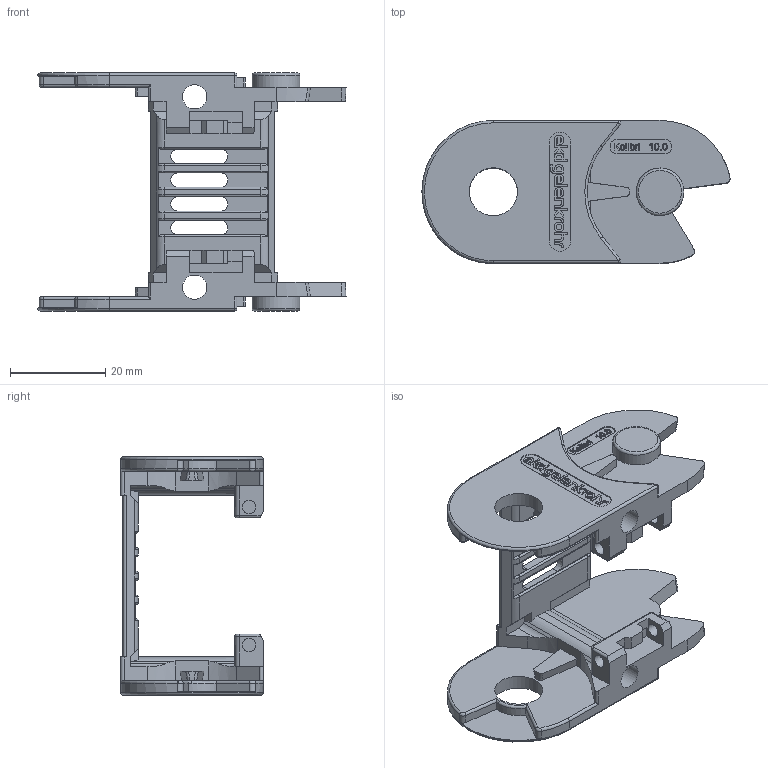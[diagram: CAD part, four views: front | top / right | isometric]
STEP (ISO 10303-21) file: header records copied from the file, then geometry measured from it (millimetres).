
FILE_DESCRIPTION((''),'2;1');
FILE_NAME('C:\Uebbing\PARAMETERKETTEN\KOLIBRI\Kol_30_050_0\Kol 30_050_0 Lasche.stp','2011-11-02T11:36:21',('Uebbing'),(''),'Autodesk Inventor 10','Autodesk Inventor 10','');
FILE_SCHEMA(('AUTOMOTIVE_DESIGN { 1 0 10303 214 1 1 1 1 }'));
Length unit declared in the file: millimetre
Products named in the file (1): Kol 30_050_0 Lasche
Bounding box: 64.71 x 30 x 50 mm (x, y, z)
Volume: 13630.2 mm3; surface area: 12182.6 mm2
Topology: 1 solids, 1 shells, 606 faces, 1656 edges, 1080 vertices
Faces by surface type: plane 317, cylinder 141, bspline 98, torus 40, sphere 6, cone 4
Full cylindrical faces by diameter (mm): 1.166 x1, 2.048 x1, 2.8 x4, 5.1 x2, 10 x2, 10.1 x2
Entity records: 20756 total; most frequent: CARTESIAN_POINT 5838, ORIENTED_EDGE 3260, DIRECTION 2832, EDGE_CURVE 1630, VERTEX_POINT 1074, VECTOR 990, LINE 990, AXIS2_PLACEMENT_3D 921
